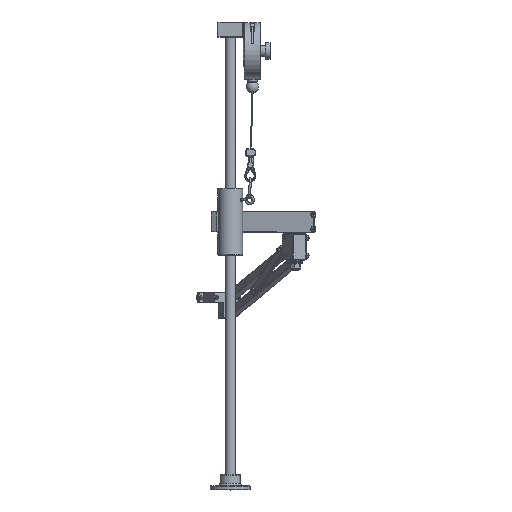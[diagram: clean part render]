
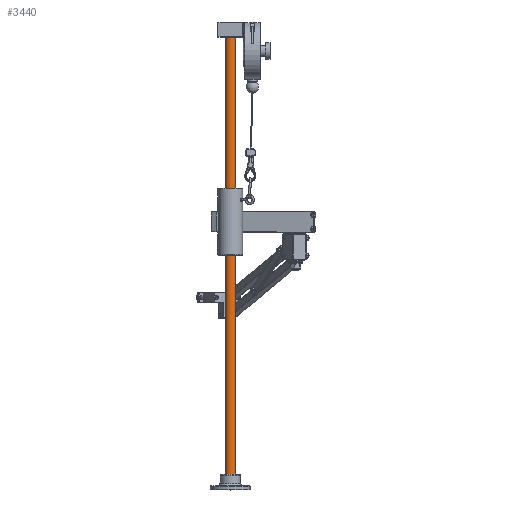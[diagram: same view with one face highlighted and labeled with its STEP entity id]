
A CAD part, top view. The second image highlights one B-rep face of the part: STEP entity #3440.
In plain terms, the highlighted cylindrical face has radius 10 mm (diameter 20 mm), a full revolution.
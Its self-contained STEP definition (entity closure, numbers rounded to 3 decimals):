
#3440 = ADVANCED_FACE( '', ( #6784, #6785 ), #6786, .T. );
#6784 = FACE_OUTER_BOUND( '', #10598, .T. );
#6785 = FACE_OUTER_BOUND( '', #10599, .T. );
#6786 = CYLINDRICAL_SURFACE( '', #10600, 10. );
#10598 = EDGE_LOOP( '', ( #17309 ) );
#10599 = EDGE_LOOP( '', ( #17310 ) );
#10600 = AXIS2_PLACEMENT_3D( '', #17311, #17312, #17313 );
#17309 = ORIENTED_EDGE( '', *, *, #19805, .T. );
#17310 = ORIENTED_EDGE( '', *, *, #21664, .T. );
#17311 = CARTESIAN_POINT( '', ( -20.166, 15.483, 900. ) );
#17312 = DIRECTION( '', ( 0., 0., 1. ) );
#17313 = DIRECTION( '', ( -1., 0., 0. ) );
#19805 = EDGE_CURVE( '', #23040, #23040, #23041, .F. );
#21664 = EDGE_CURVE( '', #25816, #25816, #25817, .T. );
#23040 = VERTEX_POINT( '', #27763 );
#23041 = CIRCLE( '', #27764, 10. );
#25816 = VERTEX_POINT( '', #32937 );
#25817 = CIRCLE( '', #32938, 10. );
#27763 = CARTESIAN_POINT( '', ( -30.166, 15.483, 1. ) );
#27764 = AXIS2_PLACEMENT_3D( '', #34875, #34876, #34877 );
#32937 = CARTESIAN_POINT( '', ( -30.166, 15.483, 899. ) );
#32938 = AXIS2_PLACEMENT_3D( '', #36990, #36991, #36992 );
#34875 = CARTESIAN_POINT( '', ( -20.166, 15.483, 1. ) );
#34876 = DIRECTION( '', ( 0., 0., -1. ) );
#34877 = DIRECTION( '', ( -1., 0., 0. ) );
#36990 = CARTESIAN_POINT( '', ( -20.166, 15.483, 899. ) );
#36991 = DIRECTION( '', ( 0., 0., -1. ) );
#36992 = DIRECTION( '', ( -1., 0., 0. ) );
